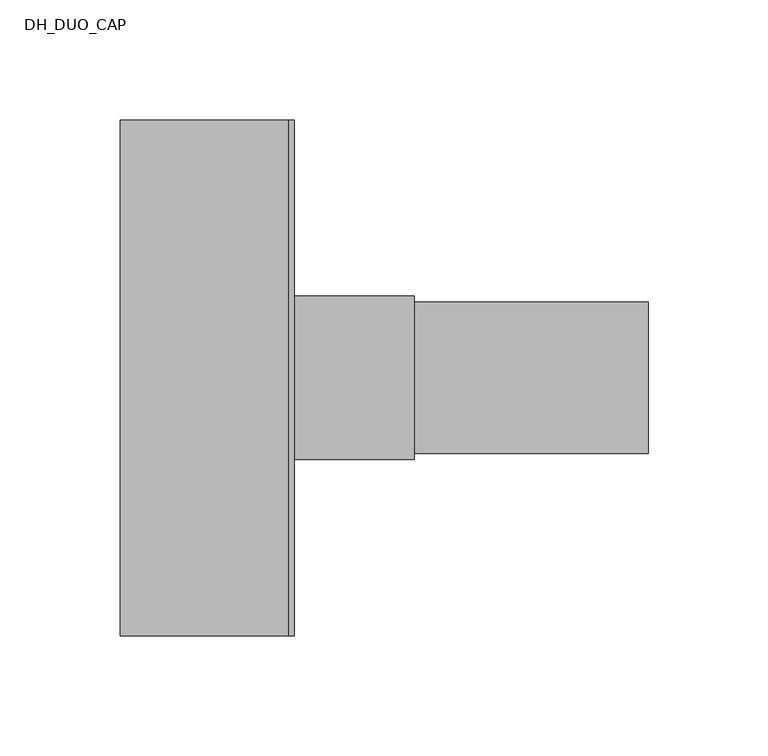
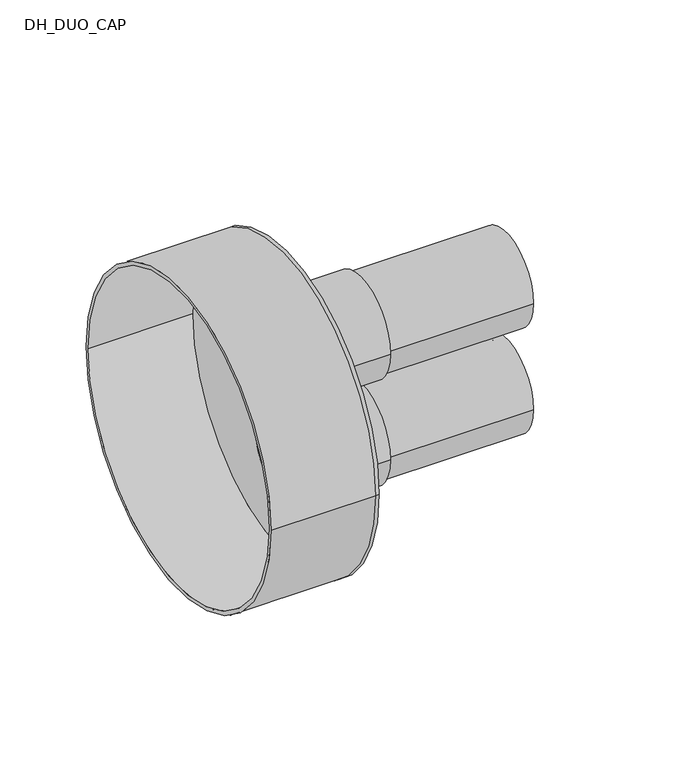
"""IFC4 building model written with IfcOpenShell, lengths in millimetres: pipe fitting geometry, DH_DUO_CAP : RAUVITHERM DUO 11 Heating - Rubber Cap."""

from ifc_helpers import new_model, si_unit, point, frame, frame_2d, origin, place, context, project, spatial, polyline, circle_curve, trimmed, segment, composite_curve, outline, extrude, source, transform, mapped, element, save
from ifc_brep_helpers import plane_surface, cylinder_surface, revolved_surface, advanced_brep


def dh_duo_cap_68a2c823(model_context):
    return source(origin(), model_context, "Body", "SolidModel", [
        extrude(outline(composite_curve([segment(trimmed(circle_curve(frame_2d((0.0, -37.5)), 31.5), [point((-31.5, -37.5))], [point((31.5, -37.5))], False, "CARTESIAN"), True, "CONTINUOUS"), segment(trimmed(circle_curve(frame_2d((0.0, -37.5)), 31.5), [point((31.5, -37.5))], [point((-31.5, -37.5))], False, "CARTESIAN"), True, "CONTINUOUS")], self_intersect=False), holes=[composite_curve([segment(trimmed(circle_curve(frame_2d((0.0, -37.5)), 25.7), [point((-25.7, -37.5))], [point((25.7, -37.5))], True, "CARTESIAN"), True, "CONTINUOUS"), segment(trimmed(circle_curve(frame_2d((0.0, -37.5)), 25.7), [point((25.7, -37.5))], [point((-25.7, -37.5))], True, "CARTESIAN"), True, "CONTINUOUS")], self_intersect=False)]), frame((0.0, 0.0, 0.0), z_axis=(1.0, 0.0, 0.0), x_axis=(0.0, 1.0, 0.0)), (0.0, 0.0, 1.0), 150.0),
        extrude(outline(composite_curve([segment(trimmed(circle_curve(frame_2d((0.0, 37.5)), 31.5), [point((-31.5, 37.5))], [point((31.5, 37.5))], False, "CARTESIAN"), True, "CONTINUOUS"), segment(trimmed(circle_curve(frame_2d((0.0, 37.5)), 31.5), [point((31.5, 37.5))], [point((-31.5, 37.5))], False, "CARTESIAN"), True, "CONTINUOUS")], self_intersect=False), holes=[composite_curve([segment(trimmed(circle_curve(frame_2d((0.0, 37.5)), 25.7), [point((-25.7, 37.5))], [point((25.7, 37.5))], True, "CARTESIAN"), True, "CONTINUOUS"), segment(trimmed(circle_curve(frame_2d((0.0, 37.5)), 25.7), [point((25.7, 37.5))], [point((-25.7, 37.5))], True, "CARTESIAN"), True, "CONTINUOUS")], self_intersect=False)]), frame((0.0, 0.0, 0.0), z_axis=(1.0, 0.0, 0.0), x_axis=(0.0, 1.0, 0.0)), (0.0, 0.0, 1.0), 150.0),
        advanced_brep(
        [(-70.0, -107.5, 0.0), (-70.0, 107.5, 0.0), (-70.0, -105.0, 0.0), (-70.0, 105.0, 0.0), (0.0, -105.0, 0.0), (0.0, 105.0, 0.0), (0.0, -107.5, 0.0), (0.0, 107.5, 0.0), (0.0, 31.5, 37.5), (0.0, -31.5, 37.5), (0.0, 31.5, -37.5), (0.0, -31.5, -37.5), (2.5, -107.5, 0.0), (2.5, 107.5, 0.0), (2.5, -31.5, 37.5), (2.5, 31.5, 37.5), (2.5, -31.5, -37.5), (2.5, 31.5, -37.5)],
        [
            (0, 1, circle_curve(frame((-70.0, 0.0, 0.0), z_axis=(-1.0, 0.0, 0.0), x_axis=(0.0, 1.0, 0.0)), 107.5)),
            (1, 0, circle_curve(frame((-70.0, 0.0, 0.0), z_axis=(-1.0, 0.0, 0.0), x_axis=(0.0, 1.0, 0.0)), 107.5)),
            (2, 3, circle_curve(frame((-70.0, 0.0, 0.0), z_axis=(1.0, 0.0, 0.0), x_axis=(0.0, 1.0, 0.0)), 105.0)),
            (3, 2, circle_curve(frame((-70.0, 0.0, 0.0), z_axis=(1.0, 0.0, 0.0), x_axis=(0.0, 1.0, 0.0)), 105.0)),
            (2, 4),
            (4, 5, circle_curve(frame((0.0, 0.0, 0.0), z_axis=(1.0, 0.0, 0.0), x_axis=(0.0, 1.0, 0.0)), 105.0)),
            (5, 3),
            (5, 4, circle_curve(frame((0.0, 0.0, 0.0), z_axis=(1.0, 0.0, 0.0), x_axis=(0.0, 1.0, 0.0)), 105.0)),
            (0, 6),
            (6, 7, circle_curve(frame((0.0, 0.0, 0.0), z_axis=(-1.0, 0.0, 0.0), x_axis=(0.0, 1.0, 0.0)), 107.5)),
            (7, 1),
            (7, 6, circle_curve(frame((0.0, 0.0, 0.0), z_axis=(-1.0, 0.0, 0.0), x_axis=(0.0, 1.0, 0.0)), 107.5)),
            (8, 9, circle_curve(frame((0.0, 0.0, 37.5), z_axis=(1.0, 0.0, 0.0), x_axis=(0.0, 1.0, 0.0)), 31.5)),
            (9, 8, circle_curve(frame((0.0, 0.0, 37.5), z_axis=(1.0, 0.0, 0.0), x_axis=(0.0, 1.0, 0.0)), 31.5)),
            (10, 11, circle_curve(frame((0.0, 0.0, -37.5), z_axis=(1.0, 0.0, 0.0), x_axis=(0.0, 1.0, 0.0)), 31.5)),
            (11, 10, circle_curve(frame((0.0, 0.0, -37.5), z_axis=(1.0, 0.0, 0.0), x_axis=(0.0, 1.0, 0.0)), 31.5)),
            (12, 13, circle_curve(frame((2.5, 0.0, 0.0), z_axis=(1.0, 0.0, 0.0), x_axis=(0.0, 1.0, 0.0)), 107.5)),
            (13, 12, circle_curve(frame((2.5, 0.0, 0.0), z_axis=(1.0, 0.0, 0.0), x_axis=(0.0, 1.0, 0.0)), 107.5)),
            (14, 15, circle_curve(frame((2.5, 0.0, 37.5), z_axis=(-1.0, 0.0, 0.0), x_axis=(0.0, 1.0, 0.0)), 31.5)),
            (15, 14, circle_curve(frame((2.5, 0.0, 37.5), z_axis=(-1.0, 0.0, 0.0), x_axis=(0.0, 1.0, 0.0)), 31.5)),
            (16, 17, circle_curve(frame((2.5, 0.0, -37.5), z_axis=(-1.0, 0.0, 0.0), x_axis=(0.0, 1.0, 0.0)), 31.5)),
            (17, 16, circle_curve(frame((2.5, 0.0, -37.5), z_axis=(-1.0, 0.0, 0.0), x_axis=(0.0, 1.0, 0.0)), 31.5)),
            (13, 7),
            (6, 12),
            (8, 15),
            (14, 9),
            (10, 17),
            (16, 11),
        ],
        [
            plane_surface(frame((-70.0, 0.0, 0.0), z_axis=(-1.0, 0.0, 0.0), x_axis=(0.0, 0.0, 1.0))),
            revolved_surface(polyline([(0.0, 105.0, 0.0), (-70.0, 105.0, 0.0)]), (-70.0, 0.0, 0.0), (1.0, 0.0, 0.0)),
            cylinder_surface(frame((-70.0, 0.0, 0.0), z_axis=(-1.0, 0.0, 0.0), x_axis=(0.0, 1.0, 0.0)), 107.5),
            plane_surface(frame((0.0, 0.0, 0.0), z_axis=(-1.0, 0.0, 0.0), x_axis=(0.0, 0.0, 1.0))),
            plane_surface(frame((2.5, 0.0, 0.0), z_axis=(1.0, 0.0, 0.0), x_axis=(0.0, 0.0, 1.0))),
            cylinder_surface(frame((0.0, 0.0, 0.0), z_axis=(-1.0, 0.0, 0.0), x_axis=(0.0, 1.0, 0.0)), 107.5),
            revolved_surface(polyline([(0.0, 31.5, 37.5), (2.5, 31.5, 37.5)]), (0.0, 0.0, 37.5), (-1.0, 0.0, 0.0)),
            revolved_surface(polyline([(0.0, 31.5, -37.5), (2.5, 31.5, -37.5)]), (0.0, 0.0, -37.5), (-1.0, 0.0, 0.0)),
        ],
        [
            (0, [[1, 2], [3, 4]]),
            (1, [[-3, 5, 6, 7]]),
            (1, [[-4, -7, 8, -5]]),
            (2, [[-1, 9, 10, 11]]),
            (2, [[-2, -11, 12, -9]]),
            (3, [[-6, -8], [13, 14], [15, 16]]),
            (4, [[17, 18], [19, 20], [21, 22]]),
            (5, [[-18, 23, -10, 24]]),
            (5, [[-17, -24, -12, -23]]),
            (6, [[25, -19, 26, -13]]),
            (6, [[-25, -14, -26, -20]]),
            (7, [[27, -21, 28, -15]]),
            (7, [[-27, -16, -28, -22]]),
        ],
    ),
        extrude(outline(composite_curve([segment(trimmed(circle_curve(frame_2d((0.0, -37.5)), 34.0), [point((-34.0, -37.5))], [point((34.0, -37.5))], False, "CARTESIAN"), True, "CONTINUOUS"), segment(trimmed(circle_curve(frame_2d((0.0, -37.5)), 34.0), [point((34.0, -37.5))], [point((-34.0, -37.5))], False, "CARTESIAN"), True, "CONTINUOUS")], self_intersect=False), holes=[composite_curve([segment(trimmed(circle_curve(frame_2d((0.0, -37.5)), 31.5), [point((-31.5, -37.5))], [point((31.5, -37.5))], True, "CARTESIAN"), True, "CONTINUOUS"), segment(trimmed(circle_curve(frame_2d((0.0, -37.5)), 31.5), [point((31.5, -37.5))], [point((-31.5, -37.5))], True, "CARTESIAN"), True, "CONTINUOUS")], self_intersect=False)]), frame((2.5, 0.0, 0.0), z_axis=(1.0, 0.0, 0.0), x_axis=(0.0, 1.0, 0.0)), (0.0, 0.0, 1.0), 50.0),
        extrude(outline(composite_curve([segment(trimmed(circle_curve(frame_2d((0.0, 37.5)), 34.0), [point((-34.0, 37.5))], [point((34.0, 37.5))], False, "CARTESIAN"), True, "CONTINUOUS"), segment(trimmed(circle_curve(frame_2d((0.0, 37.5)), 34.0), [point((34.0, 37.5))], [point((-34.0, 37.5))], False, "CARTESIAN"), True, "CONTINUOUS")], self_intersect=False), holes=[composite_curve([segment(trimmed(circle_curve(frame_2d((0.0, 37.5)), 31.5), [point((-31.5, 37.5))], [point((31.5, 37.5))], True, "CARTESIAN"), True, "CONTINUOUS"), segment(trimmed(circle_curve(frame_2d((0.0, 37.5)), 31.5), [point((31.5, 37.5))], [point((-31.5, 37.5))], True, "CARTESIAN"), True, "CONTINUOUS")], self_intersect=False)]), frame((2.5, 0.0, 0.0), z_axis=(1.0, 0.0, 0.0), x_axis=(0.0, 1.0, 0.0)), (0.0, 0.0, 1.0), 50.0),
    ])


if __name__ == "__main__":
    model = new_model("IFC4")
    model_context = context("Model", 3, world=origin())
    ifc_project = project(units=[si_unit("LENGTHUNIT", "METRE", prefix="MILLI")], contexts=[model_context])
    site = spatial("IfcSite", under=ifc_project)
    building = spatial("IfcBuilding", under=site)
    placement = place(None, origin())
    dh_duo_cap_shape = dh_duo_cap_68a2c823(model_context)
    element("IfcPipeFitting", 1, ObjectType="DH_DUO_CAP : RAUVITHERM DUO 11 Heating - Rubber Cap", at=placement, inside=building, context=model_context, shape_type="MappedRepresentation", body=[
        mapped(dh_duo_cap_shape, transform((0.0, 0.0, 0.0), x_axis=(1.0, 0.0, 0.0), y_axis=(0.0, 1.0, 0.0), z_axis=(0.0, 0.0, 1.0))),
    ])
    save(model, "model.ifc")
